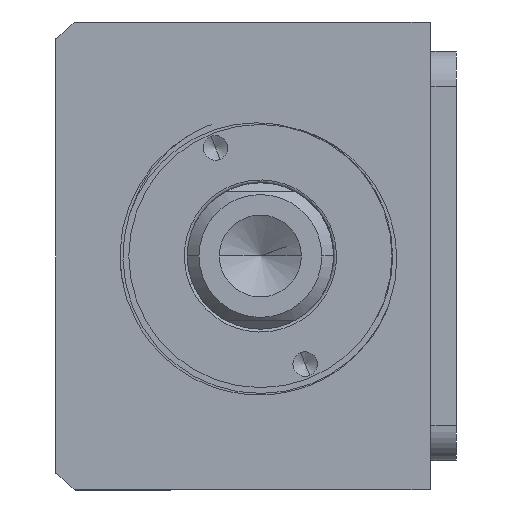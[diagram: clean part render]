
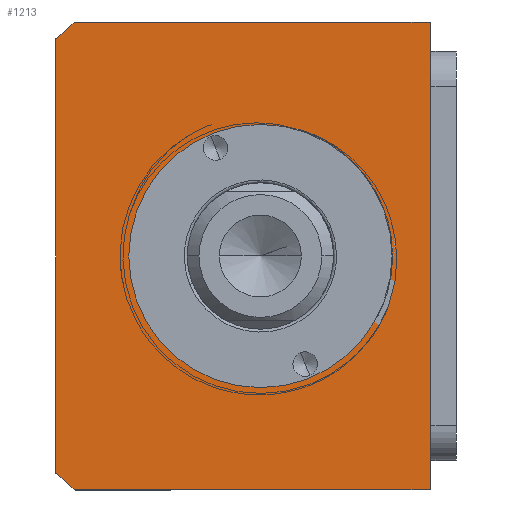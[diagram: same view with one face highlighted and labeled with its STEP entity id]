
A CAD part, front view. The second image highlights one B-rep face of the part: STEP entity #1213.
In plain terms, the highlighted planar face has unit normal (0, -1, 0) as drawn and (0, 0, 1) by its records, which use the part's own axes.
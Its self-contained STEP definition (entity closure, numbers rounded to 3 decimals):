
#303 = DIRECTION ( 'NONE',  ( 1., 0., 0. ) ) ;
#508 = CARTESIAN_POINT ( 'NONE',  ( -40., -11.507, 95. ) ) ;
#544 = CARTESIAN_POINT ( 'NONE',  ( 40., -11.507, 95. ) ) ;
#549 = ORIENTED_EDGE ( 'NONE', *, *, #5332, .F. ) ;
#1013 = VERTEX_POINT ( 'NONE', #4932 ) ;
#1213 = ADVANCED_FACE ( 'NONE', ( #2295, #6667 ), #3476, .T. ) ;
#1270 = EDGE_CURVE ( 'NONE', #4264, #1703, #4210, .T. ) ;
#1590 = EDGE_CURVE ( 'NONE', #7234, #1013, #4081, .T. ) ;
#1659 = AXIS2_PLACEMENT_3D ( 'NONE', #9271, #8622, #1699 ) ;
#1699 = DIRECTION ( 'NONE',  ( 1., 0., 0. ) ) ;
#1703 = VERTEX_POINT ( 'NONE', #544 ) ;
#1887 = VECTOR ( 'NONE', #5078, 1000. ) ;
#1997 = VERTEX_POINT ( 'NONE', #9363 ) ;
#2072 = ORIENTED_EDGE ( 'NONE', *, *, #2754, .F. ) ;
#2119 = CARTESIAN_POINT ( 'NONE',  ( 0., -40.507, 95. ) ) ;
#2202 = AXIS2_PLACEMENT_3D ( 'NONE', #10087, #5283, #303 ) ;
#2275 = CARTESIAN_POINT ( 'NONE',  ( -40., -11.507, 95. ) ) ;
#2295 = FACE_BOUND ( 'NONE', #4548, .T. ) ;
#2714 = ORIENTED_EDGE ( 'NONE', *, *, #1270, .T. ) ;
#2754 = EDGE_CURVE ( 'NONE', #1997, #2853, #3264, .T. ) ;
#2767 = VECTOR ( 'NONE', #3700, 1000. ) ;
#2853 = VERTEX_POINT ( 'NONE', #6282 ) ;
#2952 = DIRECTION ( 'NONE',  ( 1., 0., 0. ) ) ;
#3264 = CIRCLE ( 'NONE', #9666, 22.5 ) ;
#3335 = VERTEX_POINT ( 'NONE', #9316 ) ;
#3476 = PLANE ( 'NONE',  #1659 ) ;
#3489 = DIRECTION ( 'NONE',  ( 0., 0., 1. ) ) ;
#3649 = EDGE_CURVE ( 'NONE', #1013, #8501, #5194, .T. ) ;
#3700 = DIRECTION ( 'NONE',  ( -1., 0., 0. ) ) ;
#3745 = ORIENTED_EDGE ( 'NONE', *, *, #1590, .T. ) ;
#3758 = EDGE_LOOP ( 'NONE', ( #3745, #7589, #5447, #4917, #2714, #4400 ) ) ;
#3840 = CARTESIAN_POINT ( 'NONE',  ( 40., -72.145, 95. ) ) ;
#3981 = VECTOR ( 'NONE', #5720, 1000. ) ;
#4081 = LINE ( 'NONE', #2275, #1887 ) ;
#4210 = LINE ( 'NONE', #7767, #6171 ) ;
#4264 = VERTEX_POINT ( 'NONE', #3840 ) ;
#4400 = ORIENTED_EDGE ( 'NONE', *, *, #7184, .T. ) ;
#4441 = DIRECTION ( 'NONE',  ( 0., 0., 1. ) ) ;
#4503 = LINE ( 'NONE', #8117, #3981 ) ;
#4548 = EDGE_LOOP ( 'NONE', ( #549, #2072 ) ) ;
#4917 = ORIENTED_EDGE ( 'NONE', *, *, #10376, .T. ) ;
#4932 = CARTESIAN_POINT ( 'NONE',  ( -40., -72.145, 95. ) ) ;
#5078 = DIRECTION ( 'NONE',  ( 0., -1., 0. ) ) ;
#5194 = CIRCLE ( 'NONE', #8004, 51. ) ;
#5283 = DIRECTION ( 'NONE',  ( 0., 0., 1. ) ) ;
#5332 = EDGE_CURVE ( 'NONE', #2853, #1997, #8039, .T. ) ;
#5447 = ORIENTED_EDGE ( 'NONE', *, *, #8728, .T. ) ;
#5720 = DIRECTION ( 'NONE',  ( 1., 0., 0. ) ) ;
#6171 = VECTOR ( 'NONE', #9376, 1000. ) ;
#6282 = CARTESIAN_POINT ( 'NONE',  ( 22.5, -40.507, 95. ) ) ;
#6667 = FACE_OUTER_BOUND ( 'NONE', #3758, .T. ) ;
#7184 = EDGE_CURVE ( 'NONE', #1703, #7234, #9260, .T. ) ;
#7234 = VERTEX_POINT ( 'NONE', #508 ) ;
#7589 = ORIENTED_EDGE ( 'NONE', *, *, #3649, .T. ) ;
#7767 = CARTESIAN_POINT ( 'NONE',  ( 40., -11.507, 95. ) ) ;
#7783 = CARTESIAN_POINT ( 'NONE',  ( -40., -11.507, 95. ) ) ;
#7856 = DIRECTION ( 'NONE',  ( 0., 0., 1. ) ) ;
#8004 = AXIS2_PLACEMENT_3D ( 'NONE', #9284, #4441, #10082 ) ;
#8039 = CIRCLE ( 'NONE', #9248, 22.5 ) ;
#8117 = CARTESIAN_POINT ( 'NONE',  ( -40., -75.507, 95. ) ) ;
#8373 = CARTESIAN_POINT ( 'NONE',  ( 0., -40.507, 95. ) ) ;
#8501 = VERTEX_POINT ( 'NONE', #9544 ) ;
#8622 = DIRECTION ( 'NONE',  ( 0., 0., 1. ) ) ;
#8728 = EDGE_CURVE ( 'NONE', #8501, #3335, #4503, .T. ) ;
#9178 = DIRECTION ( 'NONE',  ( 1., 0., 0. ) ) ;
#9248 = AXIS2_PLACEMENT_3D ( 'NONE', #8373, #3489, #9178 ) ;
#9260 = LINE ( 'NONE', #7783, #2767 ) ;
#9271 = CARTESIAN_POINT ( 'NONE',  ( 0., 0., 95. ) ) ;
#9284 = CARTESIAN_POINT ( 'NONE',  ( 0., -40.507, 95. ) ) ;
#9316 = CARTESIAN_POINT ( 'NONE',  ( 37.094, -75.507, 95. ) ) ;
#9363 = CARTESIAN_POINT ( 'NONE',  ( -22.5, -40.507, 95. ) ) ;
#9376 = DIRECTION ( 'NONE',  ( 0., 1., 0. ) ) ;
#9544 = CARTESIAN_POINT ( 'NONE',  ( -37.094, -75.507, 95. ) ) ;
#9666 = AXIS2_PLACEMENT_3D ( 'NONE', #2119, #7856, #2952 ) ;
#10082 = DIRECTION ( 'NONE',  ( 1., 0., 0. ) ) ;
#10087 = CARTESIAN_POINT ( 'NONE',  ( 0., -40.507, 95. ) ) ;
#10289 = CIRCLE ( 'NONE', #2202, 51. ) ;
#10376 = EDGE_CURVE ( 'NONE', #3335, #4264, #10289, .T. ) ;
